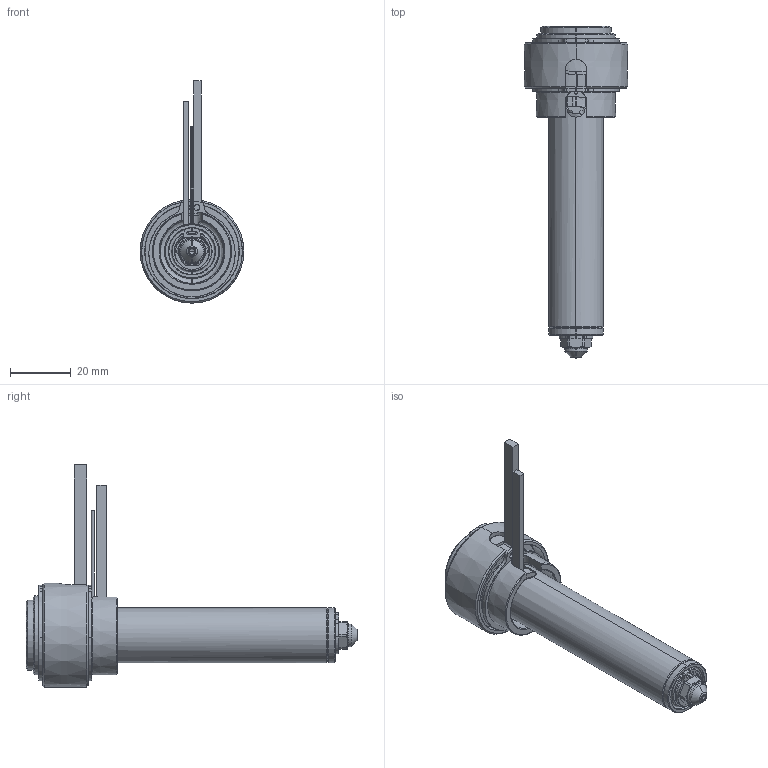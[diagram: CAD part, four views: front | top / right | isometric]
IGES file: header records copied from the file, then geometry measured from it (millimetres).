
Start section: SolidWorks IGES file using analytic representation for surfaces
Global section: file name: C:\Documents and Settings\ws-20\Desktop\TEM\UGER2503-M-A-1 [Øb-1.90 ØC-5.0].IGS; native system: SolidWorks 2012; preprocessor: SolidWorks 2012; author: ws-20; date: 120405.105235; units: millimetre
Bounding box: 34 x 108.9 x 72.9 mm (x, y, z)
Surface area: 24764.9 mm2 (no closed solid volume)
Topology: 0 solids, 0 shells, 195 faces, 2459 edges, 2457 vertices
Faces by surface type: revolution 124, bspline 71
